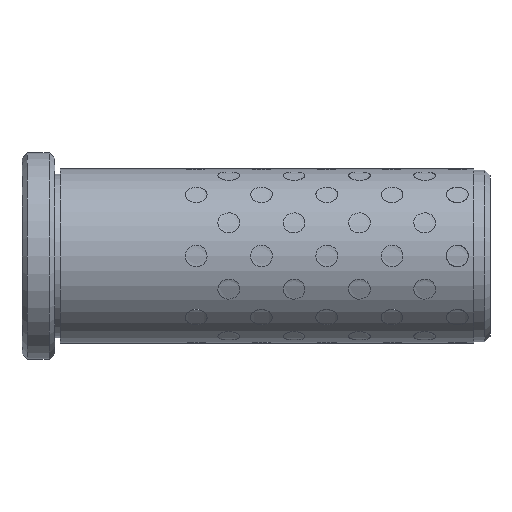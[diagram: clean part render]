
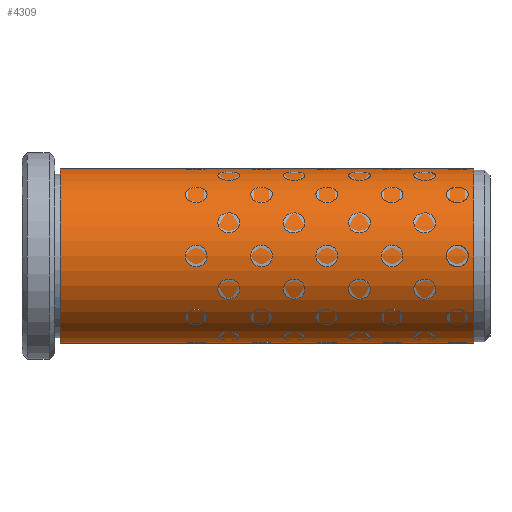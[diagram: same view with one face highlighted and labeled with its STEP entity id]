
A CAD part, left-side view. The second image highlights one B-rep face of the part: STEP entity #4309.
In plain terms, the highlighted cylindrical face has radius 16 mm (diameter 32 mm), a full revolution.
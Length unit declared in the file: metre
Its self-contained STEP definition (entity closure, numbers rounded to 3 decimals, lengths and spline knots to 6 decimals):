
#4309 = ADVANCED_FACE( '', ( #4606, #4607 ), #4608, .T. );
#4606 = FACE_OUTER_BOUND( '', #5267, .T. );
#4607 = FACE_OUTER_BOUND( '', #5268, .T. );
#4608 = CYLINDRICAL_SURFACE( '', #5269, 0.016 );
#5267 = EDGE_LOOP( '', ( #5944 ) );
#5268 = EDGE_LOOP( '', ( #5945 ) );
#5269 = AXIS2_PLACEMENT_3D( '', #5946, #5947, #5948 );
#5944 = ORIENTED_EDGE( '', *, *, #7132, .T. );
#5945 = ORIENTED_EDGE( '', *, *, #7131, .F. );
#5946 = CARTESIAN_POINT( '', ( 0., 0., 0. ) );
#5947 = DIRECTION( '', ( 0., 1., 0. ) );
#5948 = DIRECTION( '', ( 0., 0., -1. ) );
#7131 = EDGE_CURVE( '', #7330, #7330, #7331, .T. );
#7132 = EDGE_CURVE( '', #7332, #7332, #7333, .T. );
#7330 = VERTEX_POINT( '', #7712 );
#7331 = CIRCLE( '', #7713, 0.016 );
#7332 = VERTEX_POINT( '', #7714 );
#7333 = CIRCLE( '', #7715, 0.016 );
#7712 = CARTESIAN_POINT( '', ( 0., 0.003, -0.016 ) );
#7713 = AXIS2_PLACEMENT_3D( '', #17606, #17607, #17608 );
#7714 = CARTESIAN_POINT( '', ( 0., 0.079, -0.016 ) );
#7715 = AXIS2_PLACEMENT_3D( '', #17609, #17610, #17611 );
#17606 = CARTESIAN_POINT( '', ( 0., 0.003, 0. ) );
#17607 = DIRECTION( '', ( 0., -1., 0. ) );
#17608 = DIRECTION( '', ( 0., 0., -1. ) );
#17609 = CARTESIAN_POINT( '', ( 0., 0.079, 0. ) );
#17610 = DIRECTION( '', ( 0., -1., 0. ) );
#17611 = DIRECTION( '', ( 0., 0., -1. ) );
